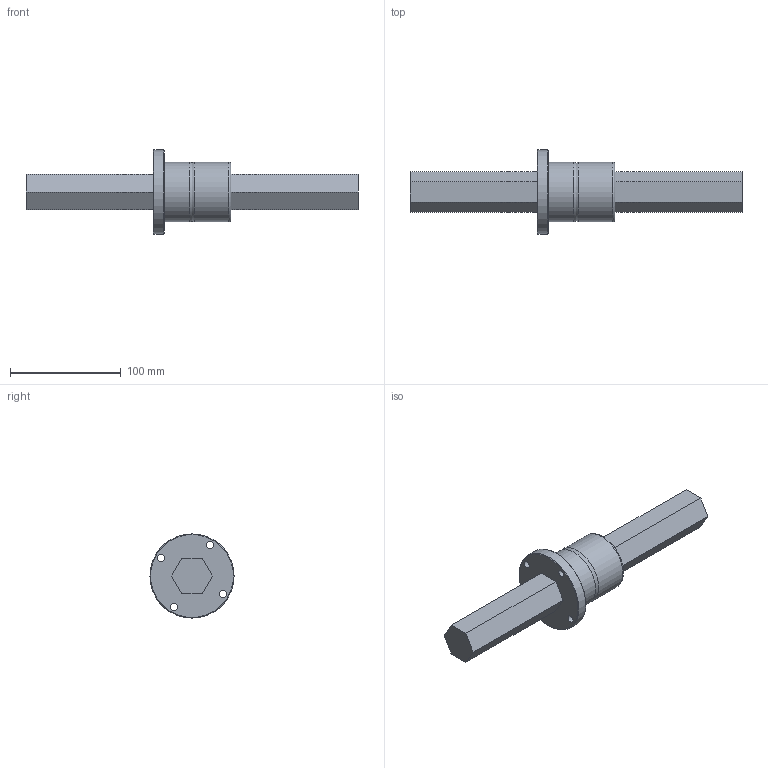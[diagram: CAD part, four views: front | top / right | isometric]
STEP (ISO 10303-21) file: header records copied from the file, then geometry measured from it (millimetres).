
FILE_DESCRIPTION((''),'2;1');
FILE_NAME('D:\製品 (図面)\カタログ用3D\ネジ関連\STEP形式\HTF\HTF32.stp','2010-06-01T16:48:53',('Tsuchiya'),(''),'Autodesk Inventor 10','Autodesk Inventor 10','');
FILE_SCHEMA(('AUTOMOTIVE_DESIGN { 1 0 10303 214 1 1 1 1 }'));
Length unit declared in the file: millimetre
Products named in the file (3): HTF32; HTF321; HTF322
Assembly tree (2 placements, depth 2):
  HTF32
    HTF321
    HTF322
Bounding box: 300 x 76 x 76 mm (x, y, z)
Volume: 383927 mm3; surface area: 63483.3 mm2
Topology: 2 solids, 2 shells, 39 faces, 96 edges, 64 vertices
Faces by surface type: plane 25, cylinder 9, cone 2, bspline 2, torus 1
Full cylindrical faces by diameter (mm): 2.5 x1, 6.6 x4, 38 x1, 54 x2, 76 x1
Entity records: 1336 total; most frequent: CARTESIAN_POINT 400, DIRECTION 178, ORIENTED_EDGE 152, EDGE_CURVE 76, EDGE_LOOP 68, AXIS2_PLACEMENT_3D 62, VERTEX_POINT 58, VECTOR 54
